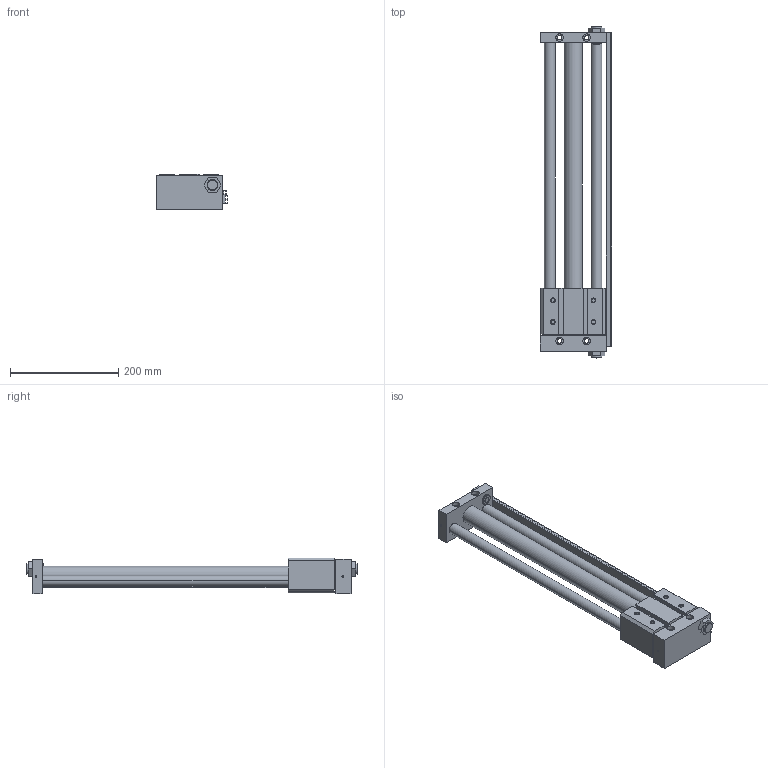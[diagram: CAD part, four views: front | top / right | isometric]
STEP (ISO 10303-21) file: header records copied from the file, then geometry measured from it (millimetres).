
FILE_DESCRIPTION((''),'2;1');
FILE_NAME('C:\Documents and Settings\Administrator\桌面\GYS\GYS32\GYSR32X450.stp','2012-03-06T20:17:45',('Administrator'),(''),'Autodesk Inventor 8','Autodesk Inventor 8','');
FILE_SCHEMA(('AUTOMOTIVE_DESIGN { 1 0 10303 214 1 1 1 1 }'));
Length unit declared in the file: millimetre
Products named in the file (3): GYSR32X450; GYS32X450; GYS32160X450
Assembly tree (2 placements, depth 2):
  GYSR32X450
    GYS32X450
    GYS32160X450
Bounding box: 132.5 x 613 x 66 mm (x, y, z)
Volume: 1738420.8 mm3; surface area: 276684.4 mm2
Topology: 2 solids, 2 shells, 291 faces, 770 edges, 504 vertices
Faces by surface type: plane 161, cylinder 96, cone 28, bspline 6
Entity records: 9200 total; most frequent: CARTESIAN_POINT 1644, DIRECTION 1598, ORIENTED_EDGE 1540, EDGE_CURVE 770, AXIS2_PLACEMENT_3D 538, VECTOR 522, LINE 522, VERTEX_POINT 504
